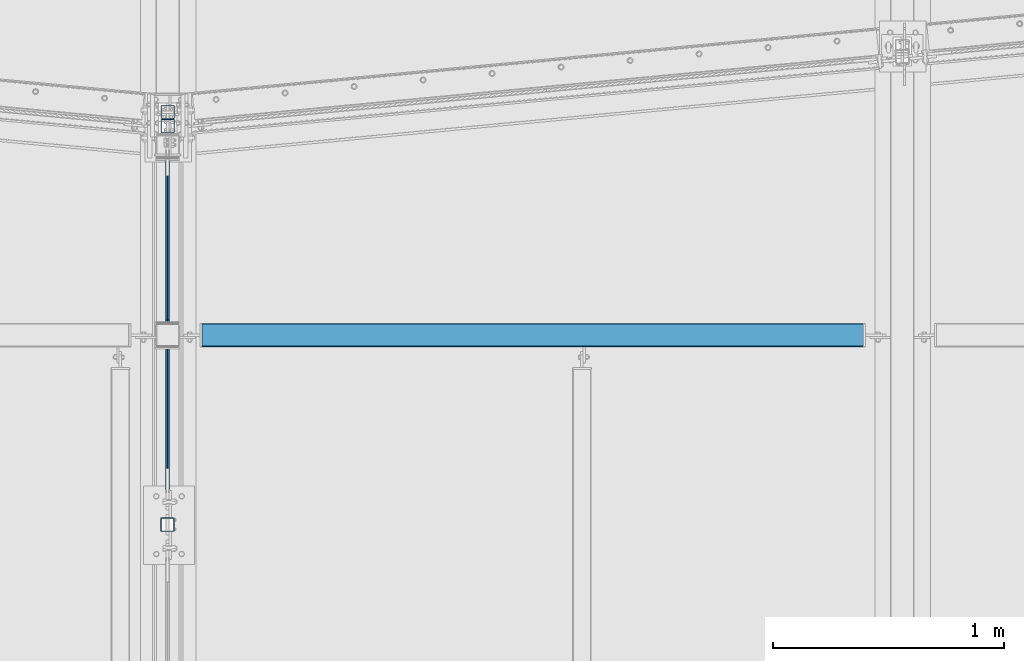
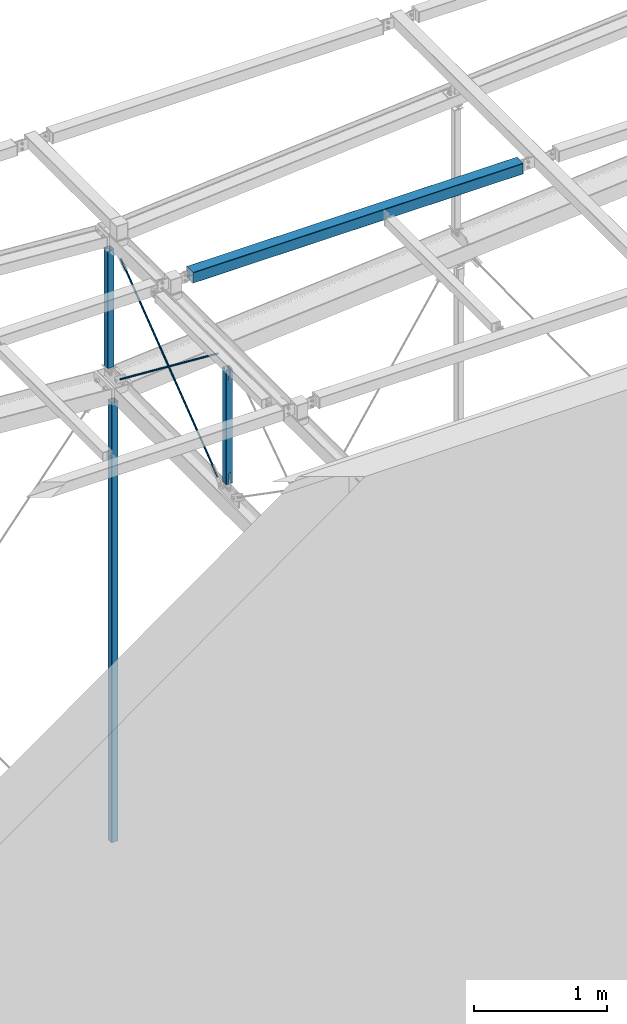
# One storey, part 20 of 271: 4 beams, 2 members, 6 elements without a shape of their own.
"""IFC2X3 building model written with IfcOpenShell, lengths in millimetres."""

from ifc_helpers import new_model, si_unit, frame, origin_with_axes, origin_2d_with_axis, place, context, subcontext, project, spatial, rectangle, hollow_rectangle, circle, extrude, boolean, clip, halfspace, material, type_object, element, aggregate, save


model = new_model("IFC2X3")

# Units and contexts
model_context = context("Model", 3, precision=1e-05, world=origin_with_axes())
body_context = subcontext(model_context, "Body", "Model", "MODEL_VIEW")
ifc_project = project(units=[si_unit("LENGTHUNIT", "METRE", prefix="MILLI"), si_unit("AREAUNIT", "SQUARE_METRE"), si_unit("VOLUMEUNIT", "CUBIC_METRE"), si_unit("MASSUNIT", "GRAM", prefix="KILO"), si_unit("TIMEUNIT", "SECOND"), si_unit("PLANEANGLEUNIT", "RADIAN"), si_unit("SOLIDANGLEUNIT", "STERADIAN"), si_unit("THERMODYNAMICTEMPERATUREUNIT", "DEGREE_CELSIUS"), si_unit("LUMINOUSINTENSITYUNIT", "LUMEN")], contexts=[model_context])

# Site, building, storey
site_placement = place(None, origin_with_axes())
site = spatial("IfcSite", under=ifc_project, at=site_placement, Name="Undefined", CompositionType="ELEMENT")
building_placement = place(site_placement, origin_with_axes())
building = spatial("IfcBuilding", under=site, at=building_placement, Name="Undefined", CompositionType="ELEMENT")
storey_placement = place(building_placement, origin_with_axes())
storey = spatial("IfcBuildingStorey", under=building, at=storey_placement, Name="Undefined", CompositionType="ELEMENT", Elevation=0.0)

# Assembly, beam
assembly_1_placement = place(storey_placement, origin_with_axes())
assembly_1 = element("IfcElementAssembly", 1, at=assembly_1_placement, inside=storey, AssemblyPlace="NOTDEFINED", PredefinedType="RIGID_FRAME")
ifc_material = material(Name="STEEL/S355JR")
beam_type_1 = type_object("IfcBeamType", Name="SHS100*3", PredefinedType="NOTDEFINED")
beam_1_placement = place(assembly_1_placement, frame((6348.37568709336, 2799.32498425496, 20154.3499999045), z_axis=(0.0, 1.0, 0.0), x_axis=(1.0, 0.0, 0.0)))
beam_1 = element("IfcBeam", 2, at=beam_1_placement, type_object=beam_type_1, material=ifc_material, Name="RYGIEL", ObjectType="SHS100*3", context=body_context, shape_type="Clipping", body=[
    clip(clip(extrude(hollow_rectangle(XDim=100.0, YDim=100.0, WallThickness=3.0, InnerFilletRadius=3.0, OuterFilletRadius=6.0, at=origin_2d_with_axis()), frame((3180.0, 0.0, 0.0), z_axis=(-1.0, 0.0, 1.38777878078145e-17), x_axis=(0.0, -1.0, 0.0)), (0.0, 0.0, 1.0), 3180.0), halfspace(frame((3012.0, 0.0, -15.0), z_axis=(-1.0, 0.0, 1.38777878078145e-17), x_axis=(0.0, 1.0, 0.0)), True)), halfspace(frame((148.000000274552, 0.0, -15.0), z_axis=(1.0, 0.0, 0.0), x_axis=(0.0, -1.0, 0.0)), True)),
])
aggregate(assembly_1, [beam_1])

assembly_2_placement = place(storey_placement, origin_with_axes())
assembly_2 = element("IfcElementAssembly", 3, at=assembly_2_placement, inside=storey, AssemblyPlace="NOTDEFINED", PredefinedType="RIGID_FRAME")
beam_type_2 = type_object("IfcBeamType", Name="SHS60*3", PredefinedType="NOTDEFINED")
beam_2_placement = place(assembly_2_placement, frame((6347.37568767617, 1979.19355050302, 20004.3499999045), z_axis=(0.0, 1.0, 0.0), x_axis=(0.0, 0.0, -1.0)))
beam_2 = element("IfcBeam", 4, at=beam_2_placement, type_object=beam_type_2, material=ifc_material, Name="TĘŻNIK", ObjectType="SHS60*3", context=body_context, shape_type="CSG", body=[
    boolean("DIFFERENCE", boolean("DIFFERENCE", boolean("DIFFERENCE", boolean("DIFFERENCE", boolean("DIFFERENCE", extrude(hollow_rectangle(XDim=60.0, YDim=60.0, WallThickness=3.0, InnerFilletRadius=3.0, OuterFilletRadius=6.0, at=origin_2d_with_axis()), frame((1360.0, 0.0, 0.0), z_axis=(-1.0, 0.0, 1.38777878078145e-17), x_axis=(0.0, -1.0, 0.0)), (0.0, 0.0, 1.0), 1360.0), extrude(rectangle(XDim=13.0, YDim=64.0, at=origin_2d_with_axis()), frame((257.525726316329, -3.08252310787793e-07, 0.0), z_axis=(-1.0, 0.0, 1.38777878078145e-17), x_axis=(0.0, -1.0, 0.0)), (0.0, 0.0, 1.0), 103.0)), extrude(rectangle(XDim=13.0, YDim=64.0, at=origin_2d_with_axis()), frame((1102.24999999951, 3.0825049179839e-07, 0.0), z_axis=(1.0, 0.0, 0.0), x_axis=(0.0, -1.0, 0.0)), (0.0, 0.0, 1.0), 103.0)), extrude(rectangle(XDim=13.0, YDim=64.0, at=origin_2d_with_axis()), frame((1102.24999999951, 3.0825049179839e-07, 0.0), z_axis=(1.0, 0.0, 0.0), x_axis=(0.0, -1.0, 0.0)), (0.0, 0.0, 1.0), 103.0)), halfspace(frame((1203.24999999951, -17.9999996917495, 0.0), z_axis=(-1.0, 0.0, 1.38777878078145e-17), x_axis=(0.0, 0.0, -1.0)), True)), halfspace(frame((156.525726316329, -17.9999996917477, 0.0), z_axis=(1.0, 0.0, 0.0), x_axis=(0.0, 0.0, 1.0)), True)),
])
aggregate(assembly_2, [beam_2])

assembly_3_placement = place(storey_placement, origin_with_axes())
assembly_3 = element("IfcElementAssembly", 5, at=assembly_3_placement, inside=storey, AssemblyPlace="NOTDEFINED", PredefinedType="RIGID_FRAME")
beam_3_placement = place(assembly_3_placement, frame((6348.37568736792, 3704.92439872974, 14321.049999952), z_axis=(0.0, 1.0, 0.0), x_axis=(0.0, 0.0, 1.0)))
beam_3 = element("IfcBeam", 6, at=beam_3_placement, type_object=beam_type_2, material=ifc_material, Name="TĘŻNIK", ObjectType="SHS60*3", context=body_context, shape_type="Clipping", body=[
    clip(clip(extrude(hollow_rectangle(XDim=60.0, YDim=60.0, WallThickness=3.0, InnerFilletRadius=3.0, OuterFilletRadius=6.0, at=origin_2d_with_axis()), frame((4320.0, 0.0, 9.09494701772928e-13), z_axis=(-1.0, 0.0, 1.38777878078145e-17), x_axis=(0.0, -1.0, 0.0)), (0.0, 0.0, 1.0), 4320.0), halfspace(frame((4182.5499999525, 15.0, 0.0), z_axis=(-1.0, 0.0, 1.38777878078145e-17), x_axis=(0.0, 0.0, 1.0)), True)), halfspace(frame((144.0499999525, 15.0, 0.0), z_axis=(1.0, 0.0, 0.0), x_axis=(0.0, 0.0, -1.0)), True)),
])
aggregate(assembly_3, [beam_3])

assembly_4_placement = place(storey_placement, origin_with_axes())
assembly_4 = element("IfcElementAssembly", 7, at=assembly_4_placement, inside=storey, AssemblyPlace="NOTDEFINED", PredefinedType="RIGID_FRAME")
beam_4_placement = place(assembly_4_placement, frame((6348.37568736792, 3764.92439872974, 18641.049999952), z_axis=(0.0, 1.0, 0.0), x_axis=(0.0, 0.0, 1.0)))
beam_4 = element("IfcBeam", 8, at=beam_4_placement, type_object=beam_type_2, material=ifc_material, Name="TĘŻNIK", ObjectType="SHS60*3", context=body_context, shape_type="Clipping", body=[
    clip(clip(extrude(hollow_rectangle(XDim=60.0, YDim=60.0, WallThickness=3.0, InnerFilletRadius=3.0, OuterFilletRadius=6.0, at=origin_2d_with_axis()), frame((1363.2999999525, 0.0, 0.0), z_axis=(-1.0, 0.0, 1.38777878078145e-17), x_axis=(0.0, -1.0, 0.0)), (0.0, 0.0, 1.0), 1363.3), halfspace(frame((1222.7999999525, 0.0, -15.0), z_axis=(-1.0, 0.0, 1.38777878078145e-17), x_axis=(0.0, 1.0, 0.0)), True)), halfspace(frame((144.0499999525, 15.0, 0.0), z_axis=(1.0, 0.0, 0.0), x_axis=(0.0, 0.0, -1.0)), True)),
])
aggregate(assembly_4, [beam_4])

# Assembly, member
assembly_5_placement = place(storey_placement, origin_with_axes())
assembly_5 = element("IfcElementAssembly", 9, at=assembly_5_placement, inside=storey, AssemblyPlace="NOTDEFINED", PredefinedType="RIGID_FRAME")
member_type = type_object("IfcMemberType", Name="D16", PredefinedType="NOTDEFINED")
member_1_placement = place(assembly_5_placement, frame((6347.37568767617, 1979.19355050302, 18644.3499999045), z_axis=(0.0, 0.609061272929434, -0.793123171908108), x_axis=(0.0, 0.793123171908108, 0.609061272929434)))
member_1 = element("IfcMember", 10, at=member_1_placement, type_object=member_type, material=ifc_material, Name="STĘŻENIE", ObjectType="D16", context=body_context, shape_type="Clipping", body=[
    clip(clip(extrude(circle(Radius=8.0, at=origin_2d_with_axis()), frame((2232.94446862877, -9.09494701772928e-13, -1.81898940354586e-12), z_axis=(-1.0, 0.0, 1.38777878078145e-17), x_axis=(0.0, -1.0, 0.0)), (0.0, 0.0, 1.0), 2232.94), halfspace(frame((2027.85156390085, 15.9999996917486, -2.49201548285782e-10), z_axis=(-1.0, 0.0, 1.38777878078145e-17), x_axis=(0.0, 0.0, 1.0)), True)), halfspace(frame((183.919379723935, 17.9999996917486, 2.34649633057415e-10), z_axis=(1.0, 0.0, 0.0), x_axis=(0.0, 0.0, -1.0)), True)),
])
aggregate(assembly_5, [member_1])

assembly_6_placement = place(storey_placement, origin_with_axes())
assembly_6 = element("IfcElementAssembly", 11, at=assembly_6_placement, inside=storey, AssemblyPlace="NOTDEFINED", PredefinedType="RIGID_FRAME")
member_2_placement = place(assembly_6_placement, frame((6347.37568767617, 3750.19355050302, 18644.3499999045), z_axis=(0.0, 0.609061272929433, 0.793123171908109), x_axis=(0.0, -0.793123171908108, 0.609061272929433)))
member_2 = element("IfcMember", 12, at=member_2_placement, type_object=member_type, material=ifc_material, Name="STĘŻENIE", ObjectType="D16", context=body_context, shape_type="Clipping", body=[
    clip(clip(extrude(circle(Radius=8.0, at=origin_2d_with_axis()), frame((2232.94446862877, -9.09494701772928e-13, -1.81898940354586e-12), z_axis=(-1.0, 0.0, 1.38777878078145e-17), x_axis=(0.0, -1.0, 0.0)), (0.0, 0.0, 1.0), 2232.94), halfspace(frame((2049.02508912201, 17.9999996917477, 2.3283064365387e-10), z_axis=(-1.0, 0.0, 1.38777878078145e-17), x_axis=(0.0, 0.0, 1.0)), True)), halfspace(frame((200.120947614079, 15.9999996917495, -2.47382558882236e-10), z_axis=(1.0, 0.0, 0.0), x_axis=(0.0, 0.0, -1.0)), True)),
])
aggregate(assembly_6, [member_2])

save(model, "model.ifc")
